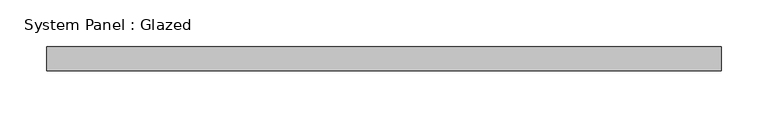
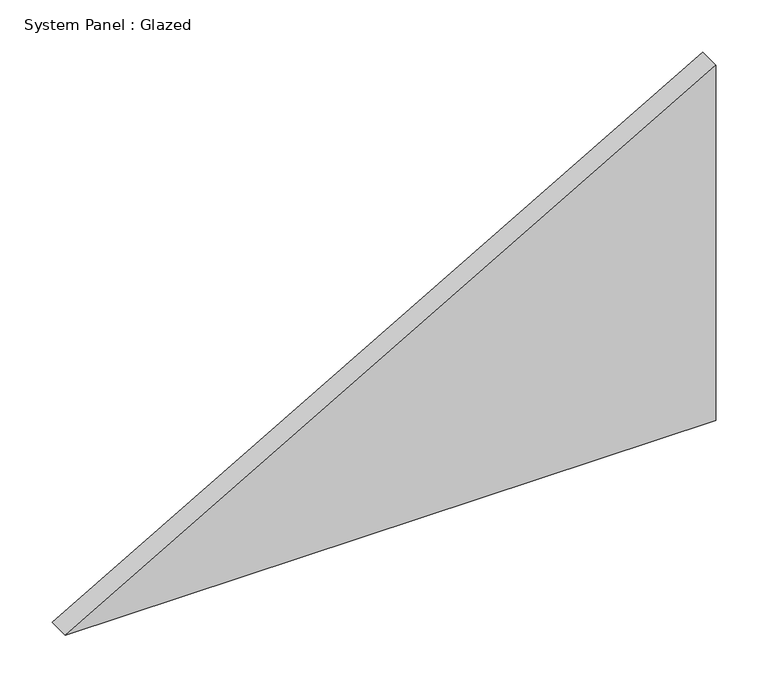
"""IFC4 building model written with IfcOpenShell, lengths in millimetres: plate geometry, System Panel : Glazed."""

from ifc_helpers import new_model, si_unit, frame, origin, place, context, project, spatial, polyline, outline, extrude, source, transform, mapped, element, save


def system_panel_glazed_610acd6b(model_context):
    return source(origin(), model_context, "Body", "SweptSolid", [
        extrude(outline(polyline([(0.0, -359.5037739), (0.0, 359.5037739), (415.1192013, 359.5037739), (0.0, -359.5037739)])), frame((0.0, 19.05, 0.0), z_axis=(0.0, 1.0, 0.0), x_axis=(0.0, 0.0, 1.0)), (0.0, 0.0, 1.0), 25.4),
    ])


if __name__ == "__main__":
    model = new_model("IFC4")
    model_context = context("Model", 3, world=origin())
    ifc_project = project(units=[si_unit("LENGTHUNIT", "METRE", prefix="MILLI")], contexts=[model_context])
    site = spatial("IfcSite", under=ifc_project)
    building = spatial("IfcBuilding", under=site)
    placement = place(None, origin())
    system_panel_glazed_shape = system_panel_glazed_610acd6b(model_context)
    element("IfcPlate", 1, ObjectType="System Panel : Glazed", at=placement, inside=building, context=model_context, shape_type="MappedRepresentation", body=[
        mapped(system_panel_glazed_shape, transform((0.0, 0.0, 0.0), x_axis=(1.0, 0.0, 0.0), y_axis=(0.0, 1.0, 0.0), z_axis=(0.0, 0.0, 1.0))),
    ])
    save(model, "model.ifc")
